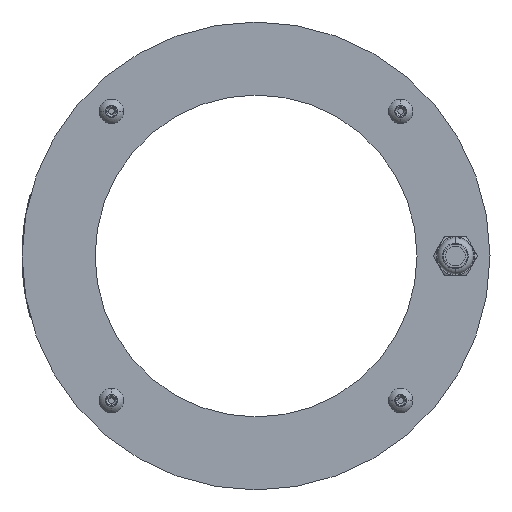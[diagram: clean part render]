
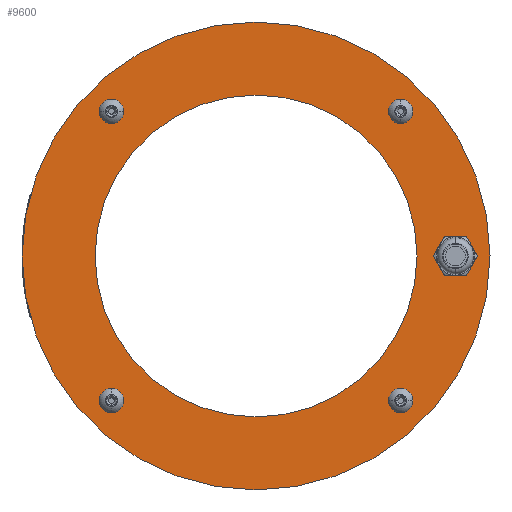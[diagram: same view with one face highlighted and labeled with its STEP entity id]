
A CAD part, front view. The second image highlights one B-rep face of the part: STEP entity #9600.
In plain terms, the highlighted planar face has unit normal (0, -1, 0).
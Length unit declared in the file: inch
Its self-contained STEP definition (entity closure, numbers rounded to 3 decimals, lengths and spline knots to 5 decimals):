
#406 = FACE_BOUND ( 'NONE', #13480, .T. ) ;
#424 = CIRCLE ( 'NONE', #15214, 0.06496 ) ;
#719 = VERTEX_POINT ( 'NONE', #24680 ) ;
#765 = EDGE_CURVE ( 'NONE', #25755, #19128, #7520, .T. ) ;
#1171 = CARTESIAN_POINT ( 'NONE',  ( -1.76777, 0., -1.83273 ) ) ;
#1175 = VERTEX_POINT ( 'NONE', #2284 ) ;
#1178 = VERTEX_POINT ( 'NONE', #12465 ) ;
#1522 = AXIS2_PLACEMENT_3D ( 'NONE', #5563, #19945, #7374 ) ;
#1590 = VERTEX_POINT ( 'NONE', #15571 ) ;
#1638 = EDGE_CURVE ( 'NONE', #6451, #11719, #9299, .T. ) ;
#1662 = DIRECTION ( 'NONE',  ( 0., -1., 0. ) ) ;
#1692 = CARTESIAN_POINT ( 'NONE',  ( 0., 0., 0. ) ) ;
#1729 = EDGE_LOOP ( 'NONE', ( #2784, #21522 ) ) ;
#1826 = CARTESIAN_POINT ( 'NONE',  ( -1.76777, 0., 1.83273 ) ) ;
#2090 = ORIENTED_EDGE ( 'NONE', *, *, #3826, .F. ) ;
#2284 = CARTESIAN_POINT ( 'NONE',  ( 1.76777, 0., -1.83273 ) ) ;
#2413 = ORIENTED_EDGE ( 'NONE', *, *, #14696, .T. ) ;
#2518 = CIRCLE ( 'NONE', #17207, 0.06496 ) ;
#2547 = CARTESIAN_POINT ( 'NONE',  ( -1.76777, 0., 1.76777 ) ) ;
#2784 = ORIENTED_EDGE ( 'NONE', *, *, #4015, .F. ) ;
#3067 = CIRCLE ( 'NONE', #6207, 0.16732 ) ;
#3398 = DIRECTION ( 'NONE',  ( 0., -1., 0. ) ) ;
#3597 = ORIENTED_EDGE ( 'NONE', *, *, #765, .F. ) ;
#3612 = FACE_OUTER_BOUND ( 'NONE', #12699, .T. ) ;
#3667 = CARTESIAN_POINT ( 'NONE',  ( 0., 0., -2.861 ) ) ;
#3826 = EDGE_CURVE ( 'NONE', #719, #1178, #11078, .T. ) ;
#3886 = CARTESIAN_POINT ( 'NONE',  ( -1.76777, 0., -1.70281 ) ) ;
#4015 = EDGE_CURVE ( 'NONE', #13327, #1590, #3067, .T. ) ;
#4496 = VERTEX_POINT ( 'NONE', #22959 ) ;
#4897 = DIRECTION ( 'NONE',  ( 0., -1., 0. ) ) ;
#5189 = AXIS2_PLACEMENT_3D ( 'NONE', #9930, #18263, #20331 ) ;
#5563 = CARTESIAN_POINT ( 'NONE',  ( -1.76777, 0., -1.76777 ) ) ;
#5588 = DIRECTION ( 'NONE',  ( 0., -1., 0. ) ) ;
#6207 = AXIS2_PLACEMENT_3D ( 'NONE', #20039, #3398, #7469 ) ;
#6229 = EDGE_LOOP ( 'NONE', ( #18543, #11591 ) ) ;
#6295 = DIRECTION ( 'NONE',  ( 0., -1., 0. ) ) ;
#6451 = VERTEX_POINT ( 'NONE', #16627 ) ;
#6480 = DIRECTION ( 'NONE',  ( 0., 0., -1. ) ) ;
#6486 = CARTESIAN_POINT ( 'NONE',  ( 1.9685, 0., 0. ) ) ;
#6951 = DIRECTION ( 'NONE',  ( 0., -1., 0. ) ) ;
#7374 = DIRECTION ( 'NONE',  ( 0., 0., -1. ) ) ;
#7469 = DIRECTION ( 'NONE',  ( 0., 0., -1. ) ) ;
#7520 = CIRCLE ( 'NONE', #22840, 0.06496 ) ;
#7970 = DIRECTION ( 'NONE',  ( 0., -1., 0. ) ) ;
#8246 = DIRECTION ( 'NONE',  ( 0., -1., 0. ) ) ;
#8483 = EDGE_CURVE ( 'NONE', #21906, #19184, #9046, .T. ) ;
#8557 = DIRECTION ( 'NONE',  ( 0., -1., 0. ) ) ;
#8588 = DIRECTION ( 'NONE',  ( 0., 0., -1. ) ) ;
#8686 = EDGE_CURVE ( 'NONE', #11719, #6451, #424, .T. ) ;
#9008 = DIRECTION ( 'NONE',  ( 0., 0., -1. ) ) ;
#9039 = AXIS2_PLACEMENT_3D ( 'NONE', #6486, #7970, #22370 ) ;
#9046 = CIRCLE ( 'NONE', #10764, 0.06496 ) ;
#9100 = VERTEX_POINT ( 'NONE', #9311 ) ;
#9131 = DIRECTION ( 'NONE',  ( 0., 0., -1. ) ) ;
#9299 = CIRCLE ( 'NONE', #19073, 0.06496 ) ;
#9311 = CARTESIAN_POINT ( 'NONE',  ( 0., 0., 2.861 ) ) ;
#9600 = ADVANCED_FACE ( 'NONE', ( #26442, #12862, #25488, #406, #12213, #3612, #19952 ), #26384, .T. ) ;
#9901 = DIRECTION ( 'NONE',  ( 0., 0., -1. ) ) ;
#9930 = CARTESIAN_POINT ( 'NONE',  ( 0., 0., 0. ) ) ;
#10149 = EDGE_CURVE ( 'NONE', #1178, #719, #21201, .T. ) ;
#10249 = CIRCLE ( 'NONE', #1522, 0.06496 ) ;
#10291 = AXIS2_PLACEMENT_3D ( 'NONE', #2547, #22918, #8588 ) ;
#10403 = DIRECTION ( 'NONE',  ( 0., 0., -1. ) ) ;
#10515 = CARTESIAN_POINT ( 'NONE',  ( -1.76777, 0., -1.76777 ) ) ;
#10667 = EDGE_CURVE ( 'NONE', #19128, #25755, #10249, .T. ) ;
#10764 = AXIS2_PLACEMENT_3D ( 'NONE', #17859, #1662, #18118 ) ;
#10890 = CARTESIAN_POINT ( 'NONE',  ( 0., 0., 0. ) ) ;
#11061 = DIRECTION ( 'NONE',  ( 0., 0., -1. ) ) ;
#11078 = CIRCLE ( 'NONE', #5189, 1.9685 ) ;
#11190 = AXIS2_PLACEMENT_3D ( 'NONE', #14437, #8246, #10403 ) ;
#11591 = ORIENTED_EDGE ( 'NONE', *, *, #8483, .F. ) ;
#11719 = VERTEX_POINT ( 'NONE', #22560 ) ;
#11952 = EDGE_LOOP ( 'NONE', ( #2090, #24165 ) ) ;
#11965 = DIRECTION ( 'NONE',  ( 0., 0., -1. ) ) ;
#12104 = EDGE_CURVE ( 'NONE', #19184, #21906, #22198, .T. ) ;
#12213 = FACE_BOUND ( 'NONE', #1729, .T. ) ;
#12465 = CARTESIAN_POINT ( 'NONE',  ( 0., 0., 1.9685 ) ) ;
#12648 = CARTESIAN_POINT ( 'NONE',  ( 1.76777, 0., -1.76777 ) ) ;
#12699 = EDGE_LOOP ( 'NONE', ( #2413, #20279 ) ) ;
#12862 = FACE_BOUND ( 'NONE', #14383, .T. ) ;
#13327 = VERTEX_POINT ( 'NONE', #17224 ) ;
#13426 = CARTESIAN_POINT ( 'NONE',  ( 1.76777, 0., 1.76777 ) ) ;
#13480 = EDGE_LOOP ( 'NONE', ( #23411, #17521 ) ) ;
#13786 = EDGE_CURVE ( 'NONE', #4496, #1175, #2518, .T. ) ;
#13903 = DIRECTION ( 'NONE',  ( 0., -1., 0. ) ) ;
#14383 = EDGE_LOOP ( 'NONE', ( #3597, #19195 ) ) ;
#14437 = CARTESIAN_POINT ( 'NONE',  ( 1.76777, 0., -1.76777 ) ) ;
#14696 = EDGE_CURVE ( 'NONE', #24441, #9100, #21696, .T. ) ;
#15214 = AXIS2_PLACEMENT_3D ( 'NONE', #18717, #8557, #16895 ) ;
#15258 = AXIS2_PLACEMENT_3D ( 'NONE', #21609, #4897, #9008 ) ;
#15571 = CARTESIAN_POINT ( 'NONE',  ( 2.4375, 0., 0.16732 ) ) ;
#16131 = ORIENTED_EDGE ( 'NONE', *, *, #22065, .F. ) ;
#16519 = DIRECTION ( 'NONE',  ( 0., 0., -1. ) ) ;
#16627 = CARTESIAN_POINT ( 'NONE',  ( 1.76777, 0., 1.83273 ) ) ;
#16895 = DIRECTION ( 'NONE',  ( 0., 0., -1. ) ) ;
#17124 = AXIS2_PLACEMENT_3D ( 'NONE', #24127, #13903, #9901 ) ;
#17207 = AXIS2_PLACEMENT_3D ( 'NONE', #12648, #6295, #6480 ) ;
#17224 = CARTESIAN_POINT ( 'NONE',  ( 2.4375, 0., -0.16732 ) ) ;
#17307 = DIRECTION ( 'NONE',  ( 0., -1., 0. ) ) ;
#17521 = ORIENTED_EDGE ( 'NONE', *, *, #1638, .F. ) ;
#17859 = CARTESIAN_POINT ( 'NONE',  ( -1.76777, 0., 1.76777 ) ) ;
#17886 = EDGE_CURVE ( 'NONE', #9100, #24441, #21030, .T. ) ;
#18118 = DIRECTION ( 'NONE',  ( 0., 0., -1. ) ) ;
#18263 = DIRECTION ( 'NONE',  ( 0., -1., 0. ) ) ;
#18543 = ORIENTED_EDGE ( 'NONE', *, *, #12104, .F. ) ;
#18717 = CARTESIAN_POINT ( 'NONE',  ( 1.76777, 0., 1.76777 ) ) ;
#19073 = AXIS2_PLACEMENT_3D ( 'NONE', #13426, #17307, #9131 ) ;
#19128 = VERTEX_POINT ( 'NONE', #3886 ) ;
#19184 = VERTEX_POINT ( 'NONE', #22915 ) ;
#19195 = ORIENTED_EDGE ( 'NONE', *, *, #10667, .F. ) ;
#19945 = DIRECTION ( 'NONE',  ( 0., -1., 0. ) ) ;
#19952 = FACE_BOUND ( 'NONE', #11952, .T. ) ;
#20039 = CARTESIAN_POINT ( 'NONE',  ( 2.4375, 0., 0. ) ) ;
#20068 = EDGE_CURVE ( 'NONE', #1590, #13327, #25799, .T. ) ;
#20279 = ORIENTED_EDGE ( 'NONE', *, *, #17886, .T. ) ;
#20331 = DIRECTION ( 'NONE',  ( 0., 0., -1. ) ) ;
#21030 = CIRCLE ( 'NONE', #17124, 2.861 ) ;
#21201 = CIRCLE ( 'NONE', #24065, 1.9685 ) ;
#21522 = ORIENTED_EDGE ( 'NONE', *, *, #20068, .F. ) ;
#21609 = CARTESIAN_POINT ( 'NONE',  ( 2.4375, 0., 0. ) ) ;
#21696 = CIRCLE ( 'NONE', #23838, 2.861 ) ;
#21906 = VERTEX_POINT ( 'NONE', #1826 ) ;
#22065 = EDGE_CURVE ( 'NONE', #1175, #4496, #22883, .T. ) ;
#22198 = CIRCLE ( 'NONE', #10291, 0.06496 ) ;
#22370 = DIRECTION ( 'NONE',  ( 0., 0., -1. ) ) ;
#22560 = CARTESIAN_POINT ( 'NONE',  ( 1.76777, 0., 1.70281 ) ) ;
#22673 = DIRECTION ( 'NONE',  ( 0., -1., 0. ) ) ;
#22840 = AXIS2_PLACEMENT_3D ( 'NONE', #10515, #22673, #16519 ) ;
#22883 = CIRCLE ( 'NONE', #11190, 0.06496 ) ;
#22912 = EDGE_LOOP ( 'NONE', ( #16131, #24558 ) ) ;
#22915 = CARTESIAN_POINT ( 'NONE',  ( -1.76777, 0., 1.70281 ) ) ;
#22918 = DIRECTION ( 'NONE',  ( 0., -1., 0. ) ) ;
#22959 = CARTESIAN_POINT ( 'NONE',  ( 1.76777, 0., -1.70281 ) ) ;
#23411 = ORIENTED_EDGE ( 'NONE', *, *, #8686, .F. ) ;
#23838 = AXIS2_PLACEMENT_3D ( 'NONE', #1692, #5588, #11965 ) ;
#24065 = AXIS2_PLACEMENT_3D ( 'NONE', #10890, #6951, #11061 ) ;
#24127 = CARTESIAN_POINT ( 'NONE',  ( 0., 0., 0. ) ) ;
#24165 = ORIENTED_EDGE ( 'NONE', *, *, #10149, .F. ) ;
#24441 = VERTEX_POINT ( 'NONE', #3667 ) ;
#24558 = ORIENTED_EDGE ( 'NONE', *, *, #13786, .F. ) ;
#24680 = CARTESIAN_POINT ( 'NONE',  ( 0., 0., -1.9685 ) ) ;
#25488 = FACE_BOUND ( 'NONE', #6229, .T. ) ;
#25755 = VERTEX_POINT ( 'NONE', #1171 ) ;
#25799 = CIRCLE ( 'NONE', #15258, 0.16732 ) ;
#26384 = PLANE ( 'NONE',  #9039 ) ;
#26442 = FACE_BOUND ( 'NONE', #22912, .T. ) ;
